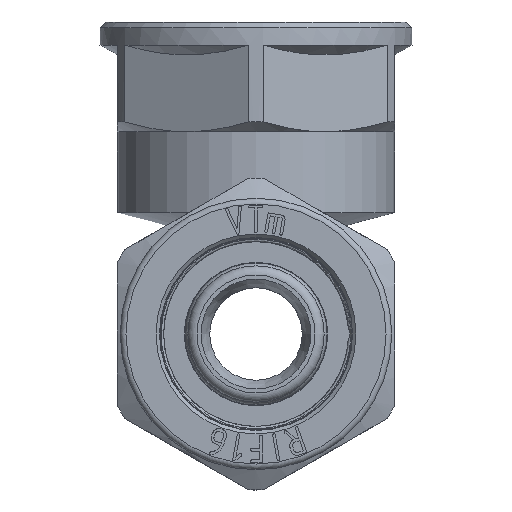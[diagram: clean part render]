
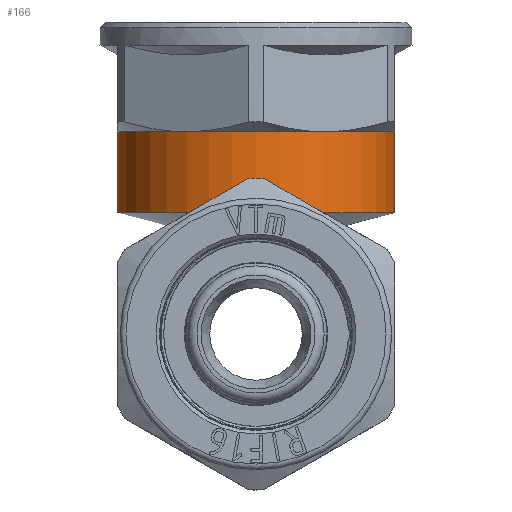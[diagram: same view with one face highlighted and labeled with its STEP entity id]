
A CAD part, front view. The second image highlights one B-rep face of the part: STEP entity #166.
In plain terms, the highlighted cylindrical face has radius 12 mm (diameter 24 mm), a full revolution.
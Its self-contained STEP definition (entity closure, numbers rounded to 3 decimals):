
#166=ADVANCED_FACE('',(#1751,#1753),#1755,.T.);
#1751=FACE_BOUND('',#1752,.T.);
#1752=EDGE_LOOP('',(#6827,#6828,#6829,#6830,#6831,#6832,#6833));
#1753=FACE_OUTER_BOUND('',#1754,.T.);
#1754=EDGE_LOOP('',(#6834));
#1755=CYLINDRICAL_SURFACE('',#1756,12.);
#1756=AXIS2_PLACEMENT_3D('',#1757,#1758,#1759);
#1757=CARTESIAN_POINT('',(0.,0.,10.5));
#1758=DIRECTION('',(0.,0.,1.));
#1759=DIRECTION('',(0.,1.,0.));
#6827=ORIENTED_EDGE('',*,*,#11496,.T.);
#6828=ORIENTED_EDGE('',*,*,#11497,.T.);
#6829=ORIENTED_EDGE('',*,*,#11498,.T.);
#6830=ORIENTED_EDGE('',*,*,#11499,.T.);
#6831=ORIENTED_EDGE('',*,*,#11500,.T.);
#6832=ORIENTED_EDGE('',*,*,#11501,.T.);
#6833=ORIENTED_EDGE('',*,*,#11502,.T.);
#6834=ORIENTED_EDGE('',*,*,#11086,.F.);
#11086=EDGE_CURVE('',#13153,#13153,#13154,.F.);
#11496=EDGE_CURVE('',#13935,#13936,#13937,.F.);
#11497=EDGE_CURVE('',#13936,#13938,#13939,.F.);
#11498=EDGE_CURVE('',#13938,#13940,#13941,.F.);
#11499=EDGE_CURVE('',#13940,#13942,#13943,.F.);
#11500=EDGE_CURVE('',#13942,#13944,#13945,.F.);
#11501=EDGE_CURVE('',#13944,#13946,#13947,.F.);
#11502=EDGE_CURVE('',#13946,#13935,#13948,.F.);
#13153=VERTEX_POINT('',#17290);
#13154=CIRCLE('',#17291,12.);
#13935=VERTEX_POINT('',#19818);
#13936=VERTEX_POINT('',#19819);
#13937=CIRCLE('',#19820,12.);
#13938=VERTEX_POINT('',#19824);
#13939=CIRCLE('',#19825,12.);
#13940=VERTEX_POINT('',#19829);
#13941=CIRCLE('',#19830,12.);
#13942=VERTEX_POINT('',#19834);
#13943=CIRCLE('',#19835,12.);
#13944=VERTEX_POINT('',#19839);
#13945=CIRCLE('',#19840,12.);
#13946=VERTEX_POINT('',#19844);
#13947=CIRCLE('',#19845,12.);
#13948=CIRCLE('',#19849,12.);
#17290=CARTESIAN_POINT('',(0.,12.,10.5));
#17291=AXIS2_PLACEMENT_3D('',#17292,#17293,#17294);
#17292=CARTESIAN_POINT('',(0.,0.,10.5));
#17293=DIRECTION('',(0.,0.,1.));
#17294=DIRECTION('',(0.,1.,0.));
#19818=CARTESIAN_POINT('',(12.,0.,17.5));
#19819=CARTESIAN_POINT('',(6.,-10.392,17.5));
#19820=AXIS2_PLACEMENT_3D('',#19821,#19822,#19823);
#19821=CARTESIAN_POINT('',(0.,0.,17.5));
#19822=DIRECTION('',(0.,0.,1.));
#19823=DIRECTION('',(0.5,-0.866,0.));
#19824=CARTESIAN_POINT('',(-6.,-10.392,17.5));
#19825=AXIS2_PLACEMENT_3D('',#19826,#19827,#19828);
#19826=CARTESIAN_POINT('',(0.,0.,17.5));
#19827=DIRECTION('',(0.,0.,1.));
#19828=DIRECTION('',(-0.5,-0.866,0.));
#19829=CARTESIAN_POINT('',(-12.,0.,17.5));
#19830=AXIS2_PLACEMENT_3D('',#19831,#19832,#19833);
#19831=CARTESIAN_POINT('',(0.,0.,17.5));
#19832=DIRECTION('',(0.,0.,1.));
#19833=DIRECTION('',(-1.,0.,0.));
#19834=CARTESIAN_POINT('',(-6.,10.392,17.5));
#19835=AXIS2_PLACEMENT_3D('',#19836,#19837,#19838);
#19836=CARTESIAN_POINT('',(0.,0.,17.5));
#19837=DIRECTION('',(0.,0.,1.));
#19838=DIRECTION('',(-0.5,0.866,0.));
#19839=CARTESIAN_POINT('',(0.,12.,17.5));
#19840=AXIS2_PLACEMENT_3D('',#19841,#19842,#19843);
#19841=CARTESIAN_POINT('',(0.,0.,17.5));
#19842=DIRECTION('',(0.,0.,1.));
#19843=DIRECTION('',(0.,1.,0.));
#19844=CARTESIAN_POINT('',(6.,10.392,17.5));
#19845=AXIS2_PLACEMENT_3D('',#19846,#19847,#19848);
#19846=CARTESIAN_POINT('',(0.,0.,17.5));
#19847=DIRECTION('',(0.,0.,1.));
#19848=DIRECTION('',(0.5,0.866,0.));
#19849=AXIS2_PLACEMENT_3D('',#19850,#19851,#19852);
#19850=CARTESIAN_POINT('',(0.,0.,17.5));
#19851=DIRECTION('',(0.,0.,1.));
#19852=DIRECTION('',(1.,0.,0.));
